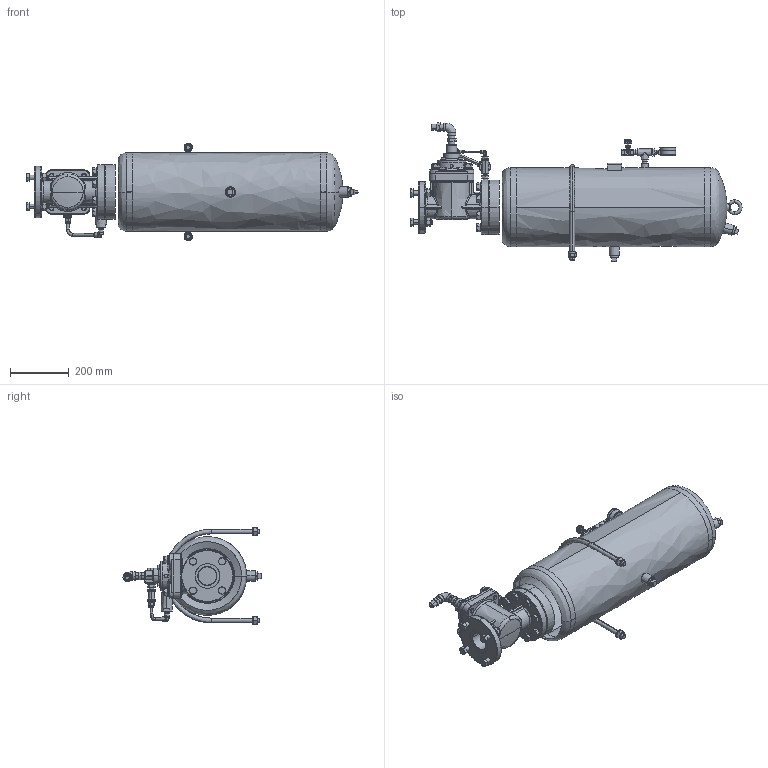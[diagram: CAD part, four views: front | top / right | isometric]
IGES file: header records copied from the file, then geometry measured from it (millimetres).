
Start section: SolidWorks IGES file using analytic representation for surfaces
Global section: file name: V:\WORK\08133\HP 寸法図\blaster\EDB2.5-38\test_G26000A-000 EDB2.5-38_defeature.IGS,  ; native system: SolidWorks 2018; preprocessor: SolidWorks 2018; author: n-udagawa; date: 230118.153625; units: millimetre
Bounding box: 1126.75 x 469.06 x 329.99 mm (x, y, z)
Surface area: 1148236.4 mm2 (no closed solid volume)
Topology: 0 solids, 0 shells, 1726 faces, 31252 edges, 35355 vertices
Faces by surface type: revolution 869, bspline 857
